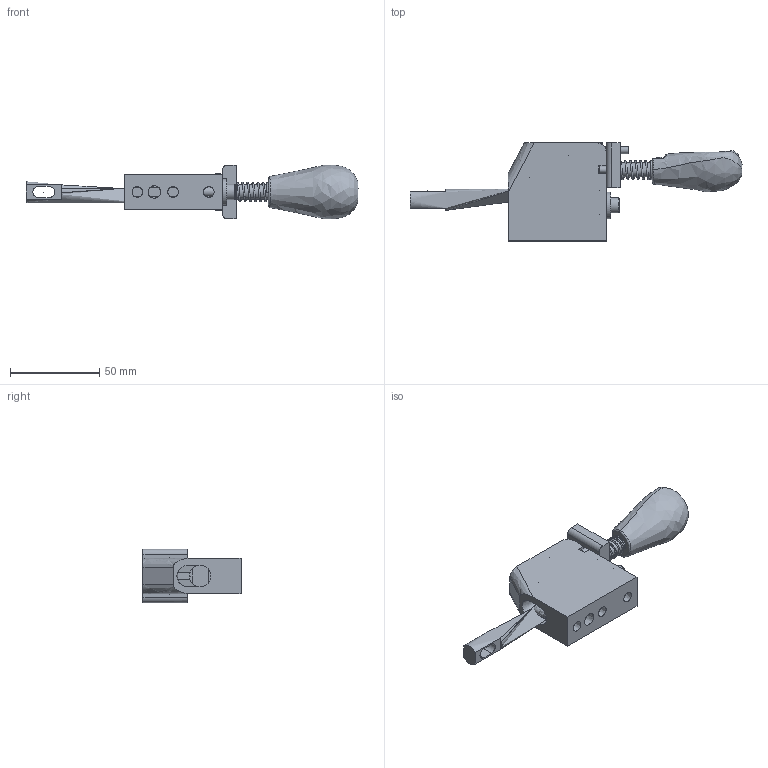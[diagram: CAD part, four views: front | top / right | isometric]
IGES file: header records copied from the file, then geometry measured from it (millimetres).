
Global section: file name: SUD-34ST-L-CLAMP; native system: Autodesk Inventor 2019; preprocessor: unknown; author: 桶田 勝弘,,  11,0; organization: 20171006.082016; date: 20240514.172333; units: millimetre
Bounding box: 186.25 x 55 x 30.18 mm (x, y, z)
Volume: 80373.5 mm3; surface area: 35114.7 mm2
Topology: 13 solids, 13 shells, 257 faces, 702 edges, 470 vertices
Faces by surface type: bspline 257
